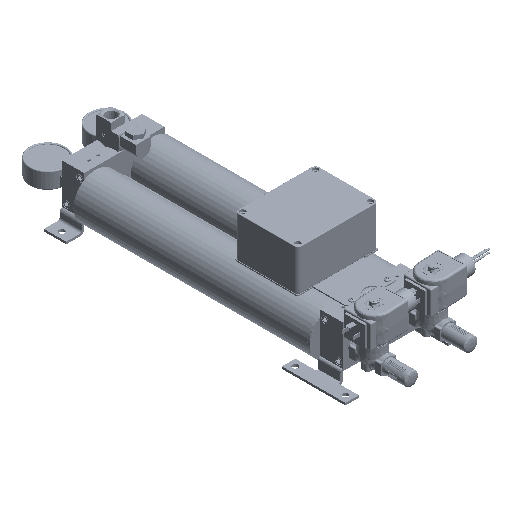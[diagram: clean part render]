
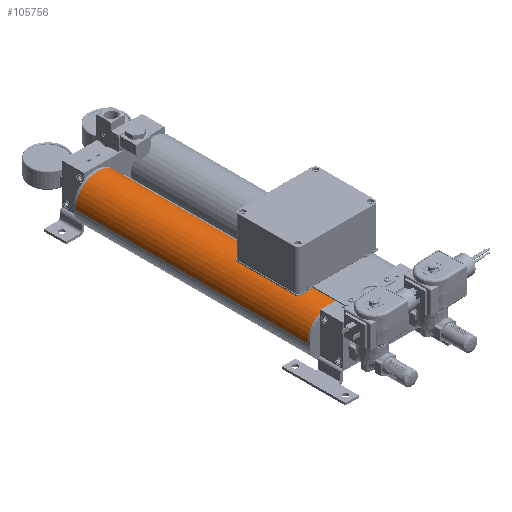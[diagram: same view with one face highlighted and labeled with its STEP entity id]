
A CAD part, isometric view. The second image highlights one B-rep face of the part: STEP entity #105756.
In plain terms, the highlighted cylindrical face has radius 31.75 mm (diameter 63.5 mm), a partial arc.
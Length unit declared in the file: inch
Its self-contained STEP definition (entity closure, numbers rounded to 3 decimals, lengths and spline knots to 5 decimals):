
#8210 = DIRECTION ( 'NONE',  ( 0., 1., 0. ) ) ;
#13062 = CARTESIAN_POINT ( 'NONE',  ( -0.85, -0.125, -1.4 ) ) ;
#13798 = EDGE_CURVE ( 'NONE', #133279, #74998, #472269, .T. ) ;
#29029 = CYLINDRICAL_SURFACE ( 'NONE', #171918, 1.25 ) ;
#34062 = AXIS2_PLACEMENT_3D ( 'NONE', #13062, #8210, #199329 ) ;
#43503 = CARTESIAN_POINT ( 'NONE',  ( 0.4, -0.125, -1.4 ) ) ;
#44625 = EDGE_CURVE ( 'NONE', #429688, #74998, #125326, .T. ) ;
#50607 = DIRECTION ( 'NONE',  ( -1., 0., 0. ) ) ;
#64898 = DIRECTION ( 'NONE',  ( 0., 1., 0. ) ) ;
#74998 = VERTEX_POINT ( 'NONE', #151410 ) ;
#76389 = ORIENTED_EDGE ( 'NONE', *, *, #44625, .T. ) ;
#82618 = CIRCLE ( 'NONE', #34062, 1.25 ) ;
#103790 = CARTESIAN_POINT ( 'NONE',  ( -2.1, -13.095, -1.4 ) ) ;
#105756 = ADVANCED_FACE ( 'NONE', ( #344592 ), #29029, .T. ) ;
#121728 = VERTEX_POINT ( 'NONE', #412967 ) ;
#122418 = CARTESIAN_POINT ( 'NONE',  ( -0.85, -0.125, -1.4 ) ) ;
#125326 = CIRCLE ( 'NONE', #378034, 1.25 ) ;
#133279 = VERTEX_POINT ( 'NONE', #43503 ) ;
#144094 = VECTOR ( 'NONE', #414658, 39.37008 ) ;
#151410 = CARTESIAN_POINT ( 'NONE',  ( 0.4, -13.095, -1.4 ) ) ;
#171918 = AXIS2_PLACEMENT_3D ( 'NONE', #122418, #347502, #50607 ) ;
#199329 = DIRECTION ( 'NONE',  ( 1., 0., 0. ) ) ;
#213576 = DIRECTION ( 'NONE',  ( 1., 0., 0. ) ) ;
#256828 = VECTOR ( 'NONE', #420996, 39.37008 ) ;
#271157 = CARTESIAN_POINT ( 'NONE',  ( -2.1, -0.125, -1.4 ) ) ;
#274274 = CARTESIAN_POINT ( 'NONE',  ( 0.4, -0.125, -1.4 ) ) ;
#279324 = EDGE_LOOP ( 'NONE', ( #325378, #305593, #483025, #76389 ) ) ;
#297366 = EDGE_CURVE ( 'NONE', #121728, #133279, #82618, .T. ) ;
#305593 = ORIENTED_EDGE ( 'NONE', *, *, #297366, .F. ) ;
#325378 = ORIENTED_EDGE ( 'NONE', *, *, #13798, .F. ) ;
#344592 = FACE_OUTER_BOUND ( 'NONE', #279324, .T. ) ;
#347502 = DIRECTION ( 'NONE',  ( 0., -1., 0. ) ) ;
#378034 = AXIS2_PLACEMENT_3D ( 'NONE', #404049, #64898, #213576 ) ;
#381503 = EDGE_CURVE ( 'NONE', #121728, #429688, #389256, .T. ) ;
#389256 = LINE ( 'NONE', #271157, #144094 ) ;
#404049 = CARTESIAN_POINT ( 'NONE',  ( -0.85, -13.095, -1.4 ) ) ;
#412967 = CARTESIAN_POINT ( 'NONE',  ( -2.1, -0.125, -1.4 ) ) ;
#414658 = DIRECTION ( 'NONE',  ( 0., -1., 0. ) ) ;
#420996 = DIRECTION ( 'NONE',  ( 0., -1., 0. ) ) ;
#429688 = VERTEX_POINT ( 'NONE', #103790 ) ;
#472269 = LINE ( 'NONE', #274274, #256828 ) ;
#483025 = ORIENTED_EDGE ( 'NONE', *, *, #381503, .T. ) ;
